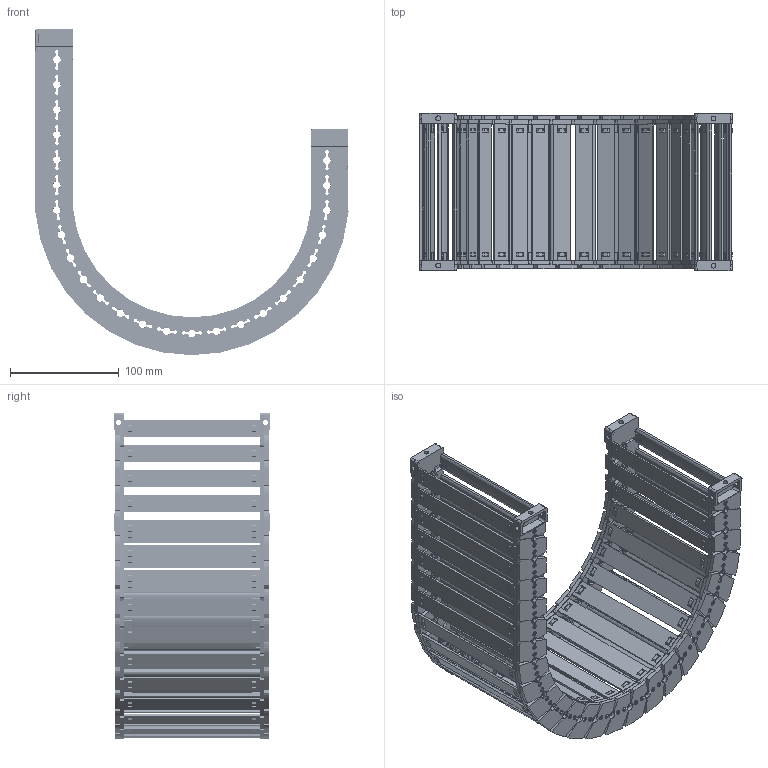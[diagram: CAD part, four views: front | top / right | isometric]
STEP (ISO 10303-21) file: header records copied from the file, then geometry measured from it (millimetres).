
FILE_DESCRIPTION((''),'2;1');
FILE_NAME('JY-28X125-R125_ASM','2026-03-25T19:48:43',('admin'),(''),'CREO PARAMETRIC BY PTC INC, 2021023','CREO PARAMETRIC BY PTC INC, 2021023','');
FILE_SCHEMA(('CONFIG_CONTROL_DESIGN'));
Length unit declared in the file: millimetre
Products named in the file (11): 28XL-L; 25-35XL-YP; 28XL-R; ASM0001_ASM; 28-LTT-A-L; 28-LTT-A-R; 28XL-LTT-A_ASM; 28-LTT-B-L; 28-LTT-B-R; 28XL-LTT-B_ASM; JY-28X125-R125_ASM
Assembly tree (38 placements, depth 3):
  JY-28X125-R125_ASM
    ASM0001_ASM  x24
      28XL-L
      25-35XL-YP
      28XL-R
    28XL-LTT-A_ASM
      28-LTT-A-L
      25-35XL-YP  x2
      28-LTT-A-R
    28XL-LTT-B_ASM
      28-LTT-B-L
      25-35XL-YP  x2
      28-LTT-B-R
Bounding box: 287.57 x 144 x 299.79 mm (x, y, z)
Volume: 598280 mm3; surface area: 428703.3 mm2
Topology: 104 solids, 104 shells, 8438 faces, 25084 edges, 16750 vertices
Faces by surface type: plane 5532, cone 1522, cylinder 1210, bspline 174
Entity records: 29143 total; most frequent: CARTESIAN_POINT 9496, ORIENTED_EDGE 4352, DIRECTION 3667, EDGE_CURVE 2176, VERTEX_POINT 1454, VECTOR 1365, LINE 1365, AXIS2_PLACEMENT_3D 1151
